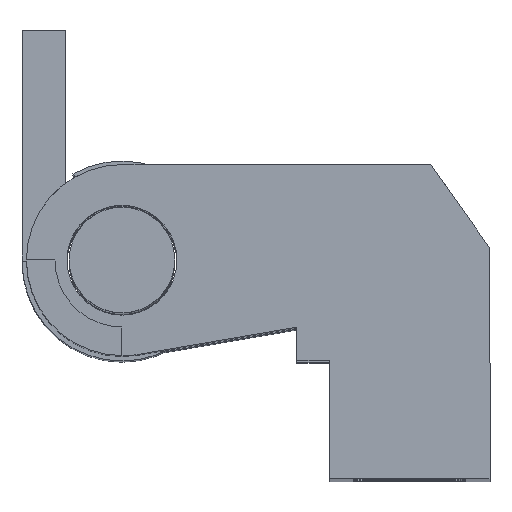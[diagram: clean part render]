
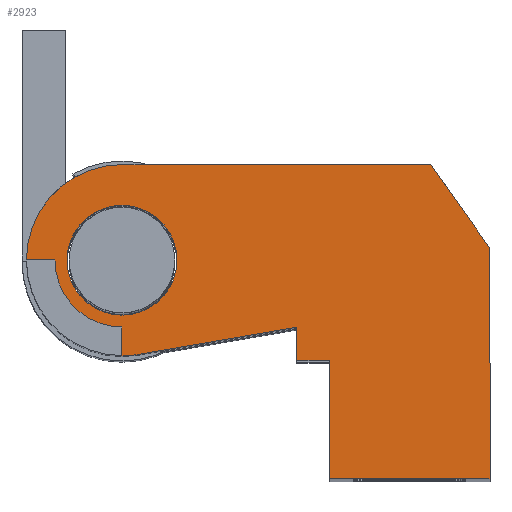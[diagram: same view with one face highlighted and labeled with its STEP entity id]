
A CAD part, top view. The second image highlights one B-rep face of the part: STEP entity #2923.
In plain terms, the highlighted planar face has unit normal (0, 0, 1).
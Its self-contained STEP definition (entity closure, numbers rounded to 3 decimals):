
#34 = DIRECTION ( 'NONE',  ( 1., 0., 0. ) ) ;
#88 = LINE ( 'NONE', #2591, #466 ) ;
#119 = ORIENTED_EDGE ( 'NONE', *, *, #3188, .F. ) ;
#261 = LINE ( 'NONE', #2412, #3687 ) ;
#271 = CARTESIAN_POINT ( 'NONE',  ( 0., 4.35, 75. ) ) ;
#299 = ORIENTED_EDGE ( 'NONE', *, *, #4027, .F. ) ;
#375 = DIRECTION ( 'NONE',  ( 0., 0., -1. ) ) ;
#405 = CARTESIAN_POINT ( 'NONE',  ( -3.05, 0., 75. ) ) ;
#466 = VECTOR ( 'NONE', #3575, 1000. ) ;
#509 = DIRECTION ( 'NONE',  ( 0.986, 0.169, 0. ) ) ;
#559 = CIRCLE ( 'NONE', #2970, 4.35 ) ;
#561 = CARTESIAN_POINT ( 'NONE',  ( 0., -4.35, 75. ) ) ;
#576 = VERTEX_POINT ( 'NONE', #1922 ) ;
#686 = CARTESIAN_POINT ( 'NONE',  ( 7.95, -3.05, 75. ) ) ;
#701 = CARTESIAN_POINT ( 'NONE',  ( -3.05, 0., 75. ) ) ;
#702 = DIRECTION ( 'NONE',  ( 1., 0., 0. ) ) ;
#712 = EDGE_CURVE ( 'NONE', #1618, #3986, #2425, .T. ) ;
#742 = EDGE_CURVE ( 'NONE', #3448, #2855, #261, .T. ) ;
#757 = CARTESIAN_POINT ( 'NONE',  ( 9.45, -4.55, 75. ) ) ;
#773 = EDGE_CURVE ( 'NONE', #2271, #2633, #1494, .T. ) ;
#775 = VERTEX_POINT ( 'NONE', #4017 ) ;
#835 = VERTEX_POINT ( 'NONE', #2117 ) ;
#842 = CARTESIAN_POINT ( 'NONE',  ( 7.95, -4.55, 75. ) ) ;
#876 = VECTOR ( 'NONE', #3173, 1000. ) ;
#916 = VECTOR ( 'NONE', #3947, 1000. ) ;
#983 = CARTESIAN_POINT ( 'NONE',  ( 16.75, -9.95, 75. ) ) ;
#1077 = CARTESIAN_POINT ( 'NONE',  ( 0., 0., 75. ) ) ;
#1083 = DIRECTION ( 'NONE',  ( 0., 0., 1. ) ) ;
#1093 = VERTEX_POINT ( 'NONE', #1263 ) ;
#1120 = VERTEX_POINT ( 'NONE', #983 ) ;
#1206 = EDGE_CURVE ( 'NONE', #1120, #775, #2566, .T. ) ;
#1207 = EDGE_CURVE ( 'NONE', #3986, #1618, #1439, .T. ) ;
#1263 = CARTESIAN_POINT ( 'NONE',  ( 9.45, -9.95, 75. ) ) ;
#1282 = LINE ( 'NONE', #405, #1537 ) ;
#1303 = EDGE_CURVE ( 'NONE', #1827, #835, #3296, .T. ) ;
#1380 = FACE_BOUND ( 'NONE', #2809, .T. ) ;
#1429 = ORIENTED_EDGE ( 'NONE', *, *, #742, .T. ) ;
#1439 = CIRCLE ( 'NONE', #4028, 2.5 ) ;
#1494 = LINE ( 'NONE', #2753, #916 ) ;
#1502 = LINE ( 'NONE', #271, #2376 ) ;
#1514 = AXIS2_PLACEMENT_3D ( 'NONE', #3909, #1083, #3334 ) ;
#1522 = ORIENTED_EDGE ( 'NONE', *, *, #1303, .T. ) ;
#1528 = DIRECTION ( 'NONE',  ( -1., 0., 0. ) ) ;
#1537 = VECTOR ( 'NONE', #3559, 1000. ) ;
#1575 = CARTESIAN_POINT ( 'NONE',  ( 0., 0., 75. ) ) ;
#1601 = EDGE_CURVE ( 'NONE', #835, #1093, #2372, .T. ) ;
#1618 = VERTEX_POINT ( 'NONE', #3378 ) ;
#1662 = CIRCLE ( 'NONE', #3976, 3.05 ) ;
#1707 = VECTOR ( 'NONE', #3870, 1000. ) ;
#1736 = EDGE_CURVE ( 'NONE', #2642, #3753, #3368, .T. ) ;
#1737 = VERTEX_POINT ( 'NONE', #701 ) ;
#1773 = ORIENTED_EDGE ( 'NONE', *, *, #773, .F. ) ;
#1789 = ORIENTED_EDGE ( 'NONE', *, *, #712, .F. ) ;
#1816 = EDGE_CURVE ( 'NONE', #775, #576, #88, .T. ) ;
#1827 = VERTEX_POINT ( 'NONE', #842 ) ;
#1922 = CARTESIAN_POINT ( 'NONE',  ( 14.05, 4.35, 75. ) ) ;
#1930 = CARTESIAN_POINT ( 'NONE',  ( 0., 0., 75. ) ) ;
#1941 = CARTESIAN_POINT ( 'NONE',  ( 16.75, 0.55, 75. ) ) ;
#1954 = CARTESIAN_POINT ( 'NONE',  ( 16.75, -9.95, 75. ) ) ;
#1975 = CARTESIAN_POINT ( 'NONE',  ( 7.95, -4.55, 75. ) ) ;
#2053 = ORIENTED_EDGE ( 'NONE', *, *, #1206, .T. ) ;
#2068 = ORIENTED_EDGE ( 'NONE', *, *, #1816, .T. ) ;
#2117 = CARTESIAN_POINT ( 'NONE',  ( 9.45, -4.55, 75. ) ) ;
#2179 = DIRECTION ( 'NONE',  ( 0., 0., 1. ) ) ;
#2232 = AXIS2_PLACEMENT_3D ( 'NONE', #1930, #2849, #34 ) ;
#2271 = VERTEX_POINT ( 'NONE', #561 ) ;
#2272 = CARTESIAN_POINT ( 'NONE',  ( 0., 0., 75. ) ) ;
#2280 = PLANE ( 'NONE',  #3315 ) ;
#2324 = DIRECTION ( 'NONE',  ( 0., 0., 1. ) ) ;
#2333 = ORIENTED_EDGE ( 'NONE', *, *, #1207, .F. ) ;
#2336 = ORIENTED_EDGE ( 'NONE', *, *, #1736, .T. ) ;
#2372 = LINE ( 'NONE', #2393, #3700 ) ;
#2376 = VECTOR ( 'NONE', #1528, 1000. ) ;
#2393 = CARTESIAN_POINT ( 'NONE',  ( 9.45, -9.95, 75. ) ) ;
#2412 = CARTESIAN_POINT ( 'NONE',  ( 0.735, -4.287, 75. ) ) ;
#2425 = CIRCLE ( 'NONE', #1514, 2.5 ) ;
#2522 = VECTOR ( 'NONE', #2922, 1000. ) ;
#2566 = LINE ( 'NONE', #1941, #1707 ) ;
#2570 = ORIENTED_EDGE ( 'NONE', *, *, #3289, .T. ) ;
#2591 = CARTESIAN_POINT ( 'NONE',  ( 14.05, 4.35, 75. ) ) ;
#2633 = VERTEX_POINT ( 'NONE', #4072 ) ;
#2639 = FACE_OUTER_BOUND ( 'NONE', #3611, .T. ) ;
#2642 = VERTEX_POINT ( 'NONE', #3083 ) ;
#2753 = CARTESIAN_POINT ( 'NONE',  ( 0., -4.35, 75. ) ) ;
#2761 = CARTESIAN_POINT ( 'NONE',  ( 2.5, 0., 75. ) ) ;
#2768 = ORIENTED_EDGE ( 'NONE', *, *, #4086, .T. ) ;
#2809 = EDGE_LOOP ( 'NONE', ( #1789, #2333 ) ) ;
#2849 = DIRECTION ( 'NONE',  ( 0., 0., 1. ) ) ;
#2855 = VERTEX_POINT ( 'NONE', #686 ) ;
#2884 = VECTOR ( 'NONE', #3276, 1000. ) ;
#2922 = DIRECTION ( 'NONE',  ( 0., -1., 0. ) ) ;
#2923 = ADVANCED_FACE ( 'NONE', ( #2639, #1380 ), #2280, .T. ) ;
#2970 = AXIS2_PLACEMENT_3D ( 'NONE', #1575, #2179, #3122 ) ;
#3083 = CARTESIAN_POINT ( 'NONE',  ( 0., 4.35, 75. ) ) ;
#3122 = DIRECTION ( 'NONE',  ( 1., 0., 0. ) ) ;
#3137 = EDGE_CURVE ( 'NONE', #2271, #3448, #559, .T. ) ;
#3143 = ORIENTED_EDGE ( 'NONE', *, *, #1601, .T. ) ;
#3173 = DIRECTION ( 'NONE',  ( 1., 0., 0. ) ) ;
#3188 = EDGE_CURVE ( 'NONE', #2633, #1737, #1662, .T. ) ;
#3206 = ORIENTED_EDGE ( 'NONE', *, *, #3979, .T. ) ;
#3229 = LINE ( 'NONE', #1954, #876 ) ;
#3249 = DIRECTION ( 'NONE',  ( 1., 0., 0. ) ) ;
#3276 = DIRECTION ( 'NONE',  ( 1., 0., 0. ) ) ;
#3284 = CARTESIAN_POINT ( 'NONE',  ( 0.735, -4.287, 75. ) ) ;
#3289 = EDGE_CURVE ( 'NONE', #2855, #1827, #3549, .T. ) ;
#3296 = LINE ( 'NONE', #757, #2884 ) ;
#3315 = AXIS2_PLACEMENT_3D ( 'NONE', #3907, #2324, #3249 ) ;
#3334 = DIRECTION ( 'NONE',  ( 1., 0., 0. ) ) ;
#3368 = CIRCLE ( 'NONE', #2232, 4.35 ) ;
#3378 = CARTESIAN_POINT ( 'NONE',  ( -2.5, 0., 75. ) ) ;
#3448 = VERTEX_POINT ( 'NONE', #3284 ) ;
#3507 = DIRECTION ( 'NONE',  ( 0., 0., 1. ) ) ;
#3549 = LINE ( 'NONE', #1975, #2522 ) ;
#3559 = DIRECTION ( 'NONE',  ( -1., 0., 0. ) ) ;
#3575 = DIRECTION ( 'NONE',  ( -0.579, 0.815, 0. ) ) ;
#3611 = EDGE_LOOP ( 'NONE', ( #299, #119, #1773, #3967, #1429, #2570, #1522, #3143, #2768, #2053, #2068, #3206, #2336 ) ) ;
#3663 = DIRECTION ( 'NONE',  ( 0., -1., 0. ) ) ;
#3687 = VECTOR ( 'NONE', #509, 1000. ) ;
#3700 = VECTOR ( 'NONE', #3663, 1000. ) ;
#3753 = VERTEX_POINT ( 'NONE', #3894 ) ;
#3817 = DIRECTION ( 'NONE',  ( 1., 0., 0. ) ) ;
#3870 = DIRECTION ( 'NONE',  ( 0., 1., 0. ) ) ;
#3894 = CARTESIAN_POINT ( 'NONE',  ( -4.35, 0., 75. ) ) ;
#3907 = CARTESIAN_POINT ( 'NONE',  ( 0., 0., 75. ) ) ;
#3909 = CARTESIAN_POINT ( 'NONE',  ( 0., 0., 75. ) ) ;
#3947 = DIRECTION ( 'NONE',  ( 0., 1., 0. ) ) ;
#3967 = ORIENTED_EDGE ( 'NONE', *, *, #3137, .T. ) ;
#3976 = AXIS2_PLACEMENT_3D ( 'NONE', #1077, #375, #702 ) ;
#3979 = EDGE_CURVE ( 'NONE', #576, #2642, #1502, .T. ) ;
#3986 = VERTEX_POINT ( 'NONE', #2761 ) ;
#4017 = CARTESIAN_POINT ( 'NONE',  ( 16.75, 0.55, 75. ) ) ;
#4027 = EDGE_CURVE ( 'NONE', #1737, #3753, #1282, .T. ) ;
#4028 = AXIS2_PLACEMENT_3D ( 'NONE', #2272, #3507, #3817 ) ;
#4072 = CARTESIAN_POINT ( 'NONE',  ( 0., -3.05, 75. ) ) ;
#4086 = EDGE_CURVE ( 'NONE', #1093, #1120, #3229, .T. ) ;
